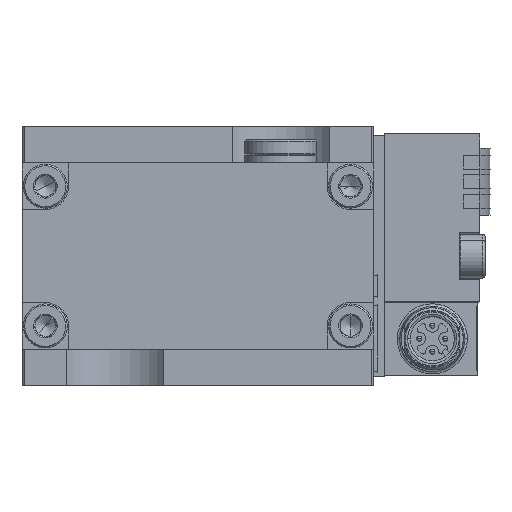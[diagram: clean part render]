
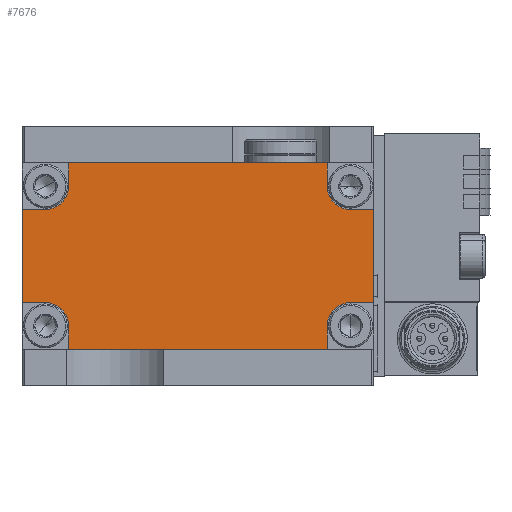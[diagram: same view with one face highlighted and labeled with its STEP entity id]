
A CAD part, front view. The second image highlights one B-rep face of the part: STEP entity #7676.
In plain terms, the highlighted planar face has unit normal (0, -1, 0).
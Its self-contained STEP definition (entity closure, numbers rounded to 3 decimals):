
#233 = VERTEX_POINT ( 'NONE', #5992 ) ;
#1172 = EDGE_CURVE ( 'NONE', #16043, #59445, #38360, .T. ) ;
#1307 = EDGE_CURVE ( 'NONE', #71474, #46787, #47821, .T. ) ;
#1410 = ORIENTED_EDGE ( 'NONE', *, *, #53339, .T. ) ;
#1580 = DIRECTION ( 'NONE',  ( 0., 0., 1. ) ) ;
#1911 = ORIENTED_EDGE ( 'NONE', *, *, #16764, .F. ) ;
#2257 = LINE ( 'NONE', #14450, #58399 ) ;
#2379 = EDGE_CURVE ( 'NONE', #5693, #68299, #41998, .T. ) ;
#3244 = LINE ( 'NONE', #20264, #59205 ) ;
#4985 = CARTESIAN_POINT ( 'NONE',  ( 34., -173.8, 9. ) ) ;
#5693 = VERTEX_POINT ( 'NONE', #7795 ) ;
#5992 = CARTESIAN_POINT ( 'NONE',  ( -25., -173.8, 18. ) ) ;
#6404 = CARTESIAN_POINT ( 'NONE',  ( -25., -173.8, -13.5 ) ) ;
#6493 = AXIS2_PLACEMENT_3D ( 'NONE', #40533, #12479, #18375 ) ;
#7608 = LINE ( 'NONE', #41585, #27229 ) ;
#7676 = ADVANCED_FACE ( 'NONE', ( #63830 ), #51323, .T. ) ;
#7795 = CARTESIAN_POINT ( 'NONE',  ( 34., -173.8, -9. ) ) ;
#7798 = VERTEX_POINT ( 'NONE', #13651 ) ;
#9652 = DIRECTION ( 'NONE',  ( 1., 0., 0. ) ) ;
#10007 = DIRECTION ( 'NONE',  ( 0., 0., 1. ) ) ;
#10499 = ORIENTED_EDGE ( 'NONE', *, *, #14251, .F. ) ;
#10950 = DIRECTION ( 'NONE',  ( 0., -1., 0. ) ) ;
#11268 = AXIS2_PLACEMENT_3D ( 'NONE', #28642, #34900, #29369 ) ;
#11685 = EDGE_CURVE ( 'NONE', #46787, #233, #45023, .T. ) ;
#12479 = DIRECTION ( 'NONE',  ( 0., -1., 0. ) ) ;
#13651 = CARTESIAN_POINT ( 'NONE',  ( 25., -173.8, -18. ) ) ;
#14155 = LINE ( 'NONE', #54734, #37751 ) ;
#14251 = EDGE_CURVE ( 'NONE', #23365, #59877, #38084, .T. ) ;
#14450 = CARTESIAN_POINT ( 'NONE',  ( -29.5, -173.8, 9. ) ) ;
#15263 = CARTESIAN_POINT ( 'NONE',  ( 29.5, -173.8, -9. ) ) ;
#15500 = VECTOR ( 'NONE', #10007, 1000. ) ;
#15998 = VERTEX_POINT ( 'NONE', #47968 ) ;
#16043 = VERTEX_POINT ( 'NONE', #56923 ) ;
#16117 = CARTESIAN_POINT ( 'NONE',  ( 29.5, -173.8, 13.5 ) ) ;
#16286 = CARTESIAN_POINT ( 'NONE',  ( 29.5, -173.8, 9. ) ) ;
#16728 = CIRCLE ( 'NONE', #36749, 4.5 ) ;
#16764 = EDGE_CURVE ( 'NONE', #67425, #23365, #51975, .T. ) ;
#18375 = DIRECTION ( 'NONE',  ( -1., 0., 0. ) ) ;
#20212 = CARTESIAN_POINT ( 'NONE',  ( 29.5, -173.8, -9. ) ) ;
#20264 = CARTESIAN_POINT ( 'NONE',  ( 25., -173.8, -13.5 ) ) ;
#20800 = ORIENTED_EDGE ( 'NONE', *, *, #40758, .F. ) ;
#21676 = DIRECTION ( 'NONE',  ( 0., 0., -1. ) ) ;
#22164 = LINE ( 'NONE', #56092, #15500 ) ;
#22552 = CARTESIAN_POINT ( 'NONE',  ( 25., -173.8, 18. ) ) ;
#23313 = ORIENTED_EDGE ( 'NONE', *, *, #33893, .F. ) ;
#23365 = VERTEX_POINT ( 'NONE', #49168 ) ;
#23640 = CARTESIAN_POINT ( 'NONE',  ( -34., -173.8, 18. ) ) ;
#23862 = DIRECTION ( 'NONE',  ( -1., 0., 0. ) ) ;
#23972 = VERTEX_POINT ( 'NONE', #47157 ) ;
#25536 = ORIENTED_EDGE ( 'NONE', *, *, #28719, .F. ) ;
#26838 = EDGE_CURVE ( 'NONE', #15998, #7798, #29321, .T. ) ;
#27229 = VECTOR ( 'NONE', #23862, 1000. ) ;
#27430 = ORIENTED_EDGE ( 'NONE', *, *, #53089, .F. ) ;
#28213 = VECTOR ( 'NONE', #56969, 1000. ) ;
#28642 = CARTESIAN_POINT ( 'NONE',  ( -29.5, -173.8, 13.5 ) ) ;
#28719 = EDGE_CURVE ( 'NONE', #59505, #35973, #22164, .T. ) ;
#29321 = LINE ( 'NONE', #35214, #28213 ) ;
#29369 = DIRECTION ( 'NONE',  ( -1., 0., 0. ) ) ;
#30289 = DIRECTION ( 'NONE',  ( 0., -1., 0. ) ) ;
#30986 = ORIENTED_EDGE ( 'NONE', *, *, #2379, .F. ) ;
#33893 = EDGE_CURVE ( 'NONE', #51935, #67425, #14155, .T. ) ;
#34282 = VECTOR ( 'NONE', #55627, 1000. ) ;
#34900 = DIRECTION ( 'NONE',  ( 0., -1., 0. ) ) ;
#35192 = CARTESIAN_POINT ( 'NONE',  ( 34., -173.8, 18. ) ) ;
#35214 = CARTESIAN_POINT ( 'NONE',  ( -34., -173.8, -18. ) ) ;
#35514 = EDGE_CURVE ( 'NONE', #68299, #23972, #16728, .T. ) ;
#35973 = VERTEX_POINT ( 'NONE', #59582 ) ;
#36749 = AXIS2_PLACEMENT_3D ( 'NONE', #49352, #67013, #38648 ) ;
#37570 = ORIENTED_EDGE ( 'NONE', *, *, #1307, .F. ) ;
#37751 = VECTOR ( 'NONE', #65797, 1000. ) ;
#38084 = LINE ( 'NONE', #16286, #65168 ) ;
#38360 = CIRCLE ( 'NONE', #6493, 4.5 ) ;
#38648 = DIRECTION ( 'NONE',  ( -1., 0., 0. ) ) ;
#38673 = LINE ( 'NONE', #43136, #34282 ) ;
#39667 = VECTOR ( 'NONE', #69988, 1000. ) ;
#40533 = CARTESIAN_POINT ( 'NONE',  ( -29.5, -173.8, -13.5 ) ) ;
#40758 = EDGE_CURVE ( 'NONE', #35973, #71474, #2257, .T. ) ;
#41585 = CARTESIAN_POINT ( 'NONE',  ( 34., -173.8, 18. ) ) ;
#41998 = LINE ( 'NONE', #20212, #39667 ) ;
#42129 = EDGE_CURVE ( 'NONE', #15998, #16043, #46640, .T. ) ;
#42419 = DIRECTION ( 'NONE',  ( 0., 0., -1. ) ) ;
#42834 = CARTESIAN_POINT ( 'NONE',  ( -29.5, -173.8, 9. ) ) ;
#42904 = DIRECTION ( 'NONE',  ( 1., 0., 0. ) ) ;
#43136 = CARTESIAN_POINT ( 'NONE',  ( -29.5, -173.8, -9. ) ) ;
#44593 = CARTESIAN_POINT ( 'NONE',  ( -29.5, -173.8, -9. ) ) ;
#45023 = LINE ( 'NONE', #49470, #67545 ) ;
#46640 = LINE ( 'NONE', #6404, #72713 ) ;
#46787 = VERTEX_POINT ( 'NONE', #53156 ) ;
#47157 = CARTESIAN_POINT ( 'NONE',  ( 25., -173.8, -13.5 ) ) ;
#47821 = CIRCLE ( 'NONE', #11268, 4.5 ) ;
#47968 = CARTESIAN_POINT ( 'NONE',  ( -25., -173.8, -18. ) ) ;
#48545 = ORIENTED_EDGE ( 'NONE', *, *, #63385, .F. ) ;
#48982 = ORIENTED_EDGE ( 'NONE', *, *, #55341, .F. ) ;
#49068 = ORIENTED_EDGE ( 'NONE', *, *, #1172, .F. ) ;
#49168 = CARTESIAN_POINT ( 'NONE',  ( 29.5, -173.8, 9. ) ) ;
#49352 = CARTESIAN_POINT ( 'NONE',  ( 29.5, -173.8, -13.5 ) ) ;
#49470 = CARTESIAN_POINT ( 'NONE',  ( -25., -173.8, 13.5 ) ) ;
#50547 = DIRECTION ( 'NONE',  ( 0., 0., 1. ) ) ;
#51323 = PLANE ( 'NONE',  #63194 ) ;
#51505 = CARTESIAN_POINT ( 'NONE',  ( 25., -173.8, 13.5 ) ) ;
#51935 = VERTEX_POINT ( 'NONE', #22552 ) ;
#51975 = CIRCLE ( 'NONE', #68428, 4.5 ) ;
#52441 = ORIENTED_EDGE ( 'NONE', *, *, #35514, .F. ) ;
#52932 = VECTOR ( 'NONE', #21676, 1000. ) ;
#53089 = EDGE_CURVE ( 'NONE', #59445, #59505, #38673, .T. ) ;
#53156 = CARTESIAN_POINT ( 'NONE',  ( -25., -173.8, 13.5 ) ) ;
#53339 = EDGE_CURVE ( 'NONE', #51935, #233, #7608, .T. ) ;
#54734 = CARTESIAN_POINT ( 'NONE',  ( 25., -173.8, 13.5 ) ) ;
#55341 = EDGE_CURVE ( 'NONE', #23972, #7798, #3244, .T. ) ;
#55627 = DIRECTION ( 'NONE',  ( -1., 0., 0. ) ) ;
#56092 = CARTESIAN_POINT ( 'NONE',  ( -34., -173.8, -18. ) ) ;
#56290 = ORIENTED_EDGE ( 'NONE', *, *, #42129, .F. ) ;
#56923 = CARTESIAN_POINT ( 'NONE',  ( -25., -173.8, -13.5 ) ) ;
#56969 = DIRECTION ( 'NONE',  ( 1., 0., 0. ) ) ;
#58399 = VECTOR ( 'NONE', #42904, 1000. ) ;
#58613 = ORIENTED_EDGE ( 'NONE', *, *, #11685, .F. ) ;
#59205 = VECTOR ( 'NONE', #42419, 1000. ) ;
#59445 = VERTEX_POINT ( 'NONE', #44593 ) ;
#59505 = VERTEX_POINT ( 'NONE', #67420 ) ;
#59582 = CARTESIAN_POINT ( 'NONE',  ( -34., -173.8, 9. ) ) ;
#59877 = VERTEX_POINT ( 'NONE', #4985 ) ;
#62568 = DIRECTION ( 'NONE',  ( -1., 0., 0. ) ) ;
#63194 = AXIS2_PLACEMENT_3D ( 'NONE', #23640, #30289, #68264 ) ;
#63360 = EDGE_LOOP ( 'NONE', ( #20800, #25536, #27430, #49068, #56290, #69273, #48982, #52441, #30986, #48545, #10499, #1911, #23313, #1410, #58613, #37570 ) ) ;
#63385 = EDGE_CURVE ( 'NONE', #59877, #5693, #67381, .T. ) ;
#63830 = FACE_OUTER_BOUND ( 'NONE', #63360, .T. ) ;
#65168 = VECTOR ( 'NONE', #9652, 1000. ) ;
#65797 = DIRECTION ( 'NONE',  ( 0., 0., -1. ) ) ;
#67013 = DIRECTION ( 'NONE',  ( 0., -1., 0. ) ) ;
#67381 = LINE ( 'NONE', #35192, #52932 ) ;
#67420 = CARTESIAN_POINT ( 'NONE',  ( -34., -173.8, -9. ) ) ;
#67425 = VERTEX_POINT ( 'NONE', #51505 ) ;
#67545 = VECTOR ( 'NONE', #50547, 1000. ) ;
#68264 = DIRECTION ( 'NONE',  ( -1., 0., 0. ) ) ;
#68299 = VERTEX_POINT ( 'NONE', #15263 ) ;
#68428 = AXIS2_PLACEMENT_3D ( 'NONE', #16117, #10950, #62568 ) ;
#69273 = ORIENTED_EDGE ( 'NONE', *, *, #26838, .T. ) ;
#69988 = DIRECTION ( 'NONE',  ( -1., 0., 0. ) ) ;
#71474 = VERTEX_POINT ( 'NONE', #42834 ) ;
#72713 = VECTOR ( 'NONE', #1580, 1000. ) ;
